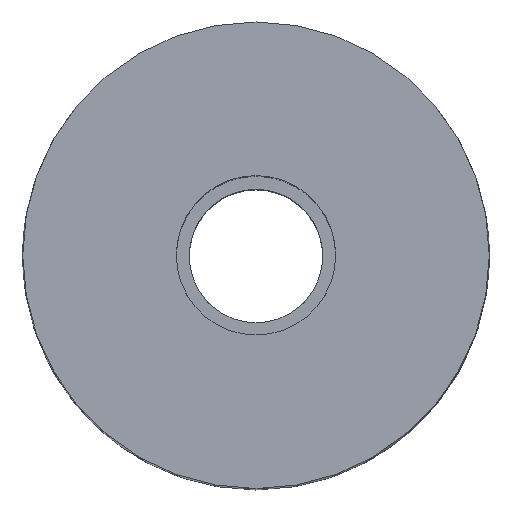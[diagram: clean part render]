
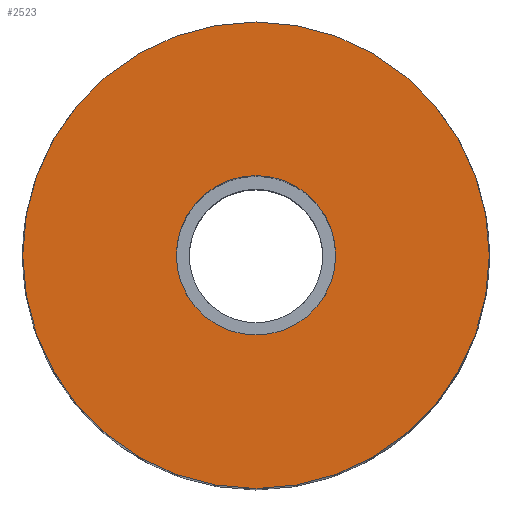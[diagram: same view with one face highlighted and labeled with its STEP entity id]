
A CAD part, top view. The second image highlights one B-rep face of the part: STEP entity #2523.
In plain terms, the highlighted planar face has unit normal (0, 0, 1).
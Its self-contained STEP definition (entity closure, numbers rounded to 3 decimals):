
#31 = CYLINDRICAL_SURFACE('',#32,9.);
#32 = AXIS2_PLACEMENT_3D('',#33,#34,#35);
#33 = CARTESIAN_POINT('',(0.,0.,0.));
#34 = DIRECTION('',(-0.,-0.,-1.));
#35 = DIRECTION('',(1.,0.,0.));
#469 = VERTEX_POINT('',#470);
#470 = CARTESIAN_POINT('',(9.,0.,32.));
#491 = EDGE_CURVE('',#469,#469,#492,.T.);
#492 = SURFACE_CURVE('',#493,(#498,#505),.PCURVE_S1.);
#493 = CIRCLE('',#494,9.);
#494 = AXIS2_PLACEMENT_3D('',#495,#496,#497);
#495 = CARTESIAN_POINT('',(0.,0.,32.));
#496 = DIRECTION('',(0.,0.,1.));
#497 = DIRECTION('',(1.,0.,0.));
#498 = PCURVE('',#31,#499);
#499 = DEFINITIONAL_REPRESENTATION('',(#500),#504);
#500 = LINE('',#501,#502);
#501 = CARTESIAN_POINT('',(-0.,-32.));
#502 = VECTOR('',#503,1.);
#503 = DIRECTION('',(-1.,0.));
#504 = ( GEOMETRIC_REPRESENTATION_CONTEXT(2) 
PARAMETRIC_REPRESENTATION_CONTEXT() REPRESENTATION_CONTEXT('2D SPACE',''
  ) );
#505 = PCURVE('',#506,#511);
#506 = PLANE('',#507);
#507 = AXIS2_PLACEMENT_3D('',#508,#509,#510);
#508 = CARTESIAN_POINT('',(0.,0.,32.));
#509 = DIRECTION('',(0.,0.,1.));
#510 = DIRECTION('',(1.,0.,-0.));
#511 = DEFINITIONAL_REPRESENTATION('',(#512),#516);
#512 = CIRCLE('',#513,9.);
#513 = AXIS2_PLACEMENT_2D('',#514,#515);
#514 = CARTESIAN_POINT('',(0.,0.));
#515 = DIRECTION('',(1.,0.));
#516 = ( GEOMETRIC_REPRESENTATION_CONTEXT(2) 
PARAMETRIC_REPRESENTATION_CONTEXT() REPRESENTATION_CONTEXT('2D SPACE',''
  ) );
#2388 = CYLINDRICAL_SURFACE('',#2389,3.075);
#2389 = AXIS2_PLACEMENT_3D('',#2390,#2391,#2392);
#2390 = CARTESIAN_POINT('',(0.,0.,32.));
#2391 = DIRECTION('',(0.,0.,-1.));
#2392 = DIRECTION('',(-1.,0.,0.));
#2523 = ADVANCED_FACE('',(#2524,#2527),#506,.T.);
#2524 = FACE_BOUND('',#2525,.T.);
#2525 = EDGE_LOOP('',(#2526));
#2526 = ORIENTED_EDGE('',*,*,#491,.T.);
#2527 = FACE_BOUND('',#2528,.T.);
#2528 = EDGE_LOOP('',(#2529));
#2529 = ORIENTED_EDGE('',*,*,#2530,.T.);
#2530 = EDGE_CURVE('',#2531,#2531,#2533,.T.);
#2531 = VERTEX_POINT('',#2532);
#2532 = CARTESIAN_POINT('',(-3.075,0.,32.));
#2533 = SURFACE_CURVE('',#2534,(#2539,#2550),.PCURVE_S1.);
#2534 = CIRCLE('',#2535,3.075);
#2535 = AXIS2_PLACEMENT_3D('',#2536,#2537,#2538);
#2536 = CARTESIAN_POINT('',(0.,0.,32.));
#2537 = DIRECTION('',(0.,0.,-1.));
#2538 = DIRECTION('',(-1.,0.,0.));
#2539 = PCURVE('',#506,#2540);
#2540 = DEFINITIONAL_REPRESENTATION('',(#2541),#2549);
#2541 = ( BOUNDED_CURVE() B_SPLINE_CURVE(2,(#2542,#2543,#2544,#2545,
#2546,#2547,#2548),.UNSPECIFIED.,.T.,.F.) B_SPLINE_CURVE_WITH_KNOTS((1,2
    ,2,2,2,1),(-2.094,0.,2.094,4.189,
6.283,8.378),.UNSPECIFIED.) CURVE() 
GEOMETRIC_REPRESENTATION_ITEM() RATIONAL_B_SPLINE_CURVE((1.,0.5,1.,0.5,
1.,0.5,1.)) REPRESENTATION_ITEM('') );
#2542 = CARTESIAN_POINT('',(-3.075,0.));
#2543 = CARTESIAN_POINT('',(-3.075,5.326));
#2544 = CARTESIAN_POINT('',(1.538,2.663));
#2545 = CARTESIAN_POINT('',(6.15,0.));
#2546 = CARTESIAN_POINT('',(1.538,-2.663));
#2547 = CARTESIAN_POINT('',(-3.075,-5.326));
#2548 = CARTESIAN_POINT('',(-3.075,0.));
#2549 = ( GEOMETRIC_REPRESENTATION_CONTEXT(2) 
PARAMETRIC_REPRESENTATION_CONTEXT() REPRESENTATION_CONTEXT('2D SPACE',''
  ) );
#2550 = PCURVE('',#2388,#2551);
#2551 = DEFINITIONAL_REPRESENTATION('',(#2552),#2556);
#2552 = LINE('',#2553,#2554);
#2553 = CARTESIAN_POINT('',(0.,0.));
#2554 = VECTOR('',#2555,1.);
#2555 = DIRECTION('',(1.,0.));
#2556 = ( GEOMETRIC_REPRESENTATION_CONTEXT(2) 
PARAMETRIC_REPRESENTATION_CONTEXT() REPRESENTATION_CONTEXT('2D SPACE',''
  ) );
